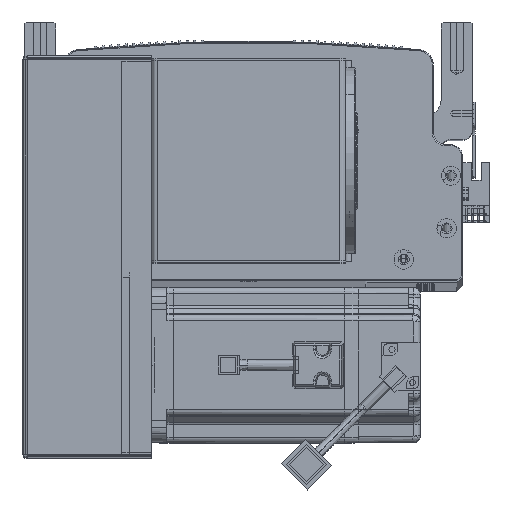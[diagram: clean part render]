
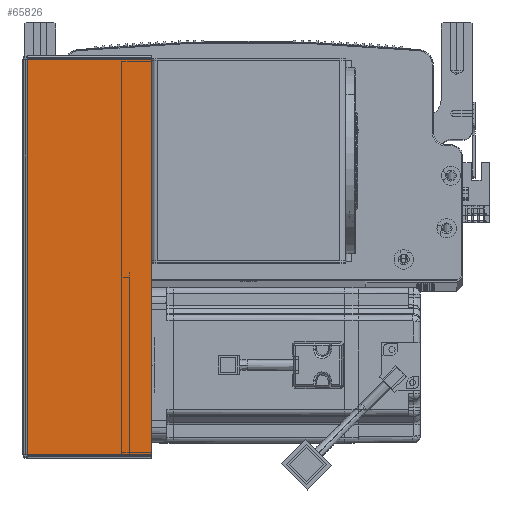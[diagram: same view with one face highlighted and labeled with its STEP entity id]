
A CAD part, top view. The second image highlights one B-rep face of the part: STEP entity #65826.
In plain terms, the highlighted planar face has unit normal (0, 0, 1) as drawn and (0, -1, 0) by its records, which use the part's own axes.
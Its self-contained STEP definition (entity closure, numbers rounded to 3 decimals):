
#476 = CARTESIAN_POINT ( 'NONE',  ( 0.737, -1.5, 0. ) ) ;
#588 = DIRECTION ( 'NONE',  ( 1., 0., 0. ) ) ;
#6315 = CARTESIAN_POINT ( 'NONE',  ( 0.737, -1.5, -0.707 ) ) ;
#12509 = VECTOR ( 'NONE', #92718, 1000. ) ;
#12557 = VERTEX_POINT ( 'NONE', #34339 ) ;
#15067 = ORIENTED_EDGE ( 'NONE', *, *, #69678, .F. ) ;
#17339 = VECTOR ( 'NONE', #38423, 1000. ) ;
#18519 = CARTESIAN_POINT ( 'NONE',  ( 0., -1.5, 0. ) ) ;
#21056 = LINE ( 'NONE', #30699, #46335 ) ;
#22190 = CARTESIAN_POINT ( 'NONE',  ( 64.5, -1.5, -203.293 ) ) ;
#25420 = EDGE_CURVE ( 'NONE', #71196, #26626, #76120, .T. ) ;
#25915 = DIRECTION ( 'NONE',  ( -1., 0., 0. ) ) ;
#26283 = ORIENTED_EDGE ( 'NONE', *, *, #48131, .T. ) ;
#26626 = VERTEX_POINT ( 'NONE', #6315 ) ;
#29571 = CARTESIAN_POINT ( 'NONE',  ( 0., -1.5, -0.707 ) ) ;
#30699 = CARTESIAN_POINT ( 'NONE',  ( 0., -1.5, -203.293 ) ) ;
#34339 = CARTESIAN_POINT ( 'NONE',  ( 64.5, -1.5, -0.707 ) ) ;
#34638 = ORIENTED_EDGE ( 'NONE', *, *, #25420, .F. ) ;
#38423 = DIRECTION ( 'NONE',  ( 0., 0., 1. ) ) ;
#46335 = VECTOR ( 'NONE', #75131, 1000. ) ;
#48131 = EDGE_CURVE ( 'NONE', #71196, #56078, #21056, .T. ) ;
#52363 = EDGE_LOOP ( 'NONE', ( #34638, #26283, #63904, #15067 ) ) ;
#54654 = CARTESIAN_POINT ( 'NONE',  ( 0.737, -1.5, -203.293 ) ) ;
#56078 = VERTEX_POINT ( 'NONE', #22190 ) ;
#61614 = VECTOR ( 'NONE', #588, 1000. ) ;
#62639 = PLANE ( 'NONE',  #73731 ) ;
#63904 = ORIENTED_EDGE ( 'NONE', *, *, #76649, .T. ) ;
#65826 = ADVANCED_FACE ( 'NONE', ( #86340 ), #62639, .F. ) ;
#69678 = EDGE_CURVE ( 'NONE', #26626, #12557, #88097, .T. ) ;
#70054 = DIRECTION ( 'NONE',  ( 0., 1., 0. ) ) ;
#71196 = VERTEX_POINT ( 'NONE', #54654 ) ;
#73731 = AXIS2_PLACEMENT_3D ( 'NONE', #18519, #70054, #25915 ) ;
#75131 = DIRECTION ( 'NONE',  ( 1., 0., 0. ) ) ;
#76120 = LINE ( 'NONE', #476, #17339 ) ;
#76649 = EDGE_CURVE ( 'NONE', #56078, #12557, #78147, .T. ) ;
#78147 = LINE ( 'NONE', #84386, #12509 ) ;
#84386 = CARTESIAN_POINT ( 'NONE',  ( 64.5, -1.5, 0. ) ) ;
#86340 = FACE_OUTER_BOUND ( 'NONE', #52363, .T. ) ;
#88097 = LINE ( 'NONE', #29571, #61614 ) ;
#92718 = DIRECTION ( 'NONE',  ( 0., 0., 1. ) ) ;
